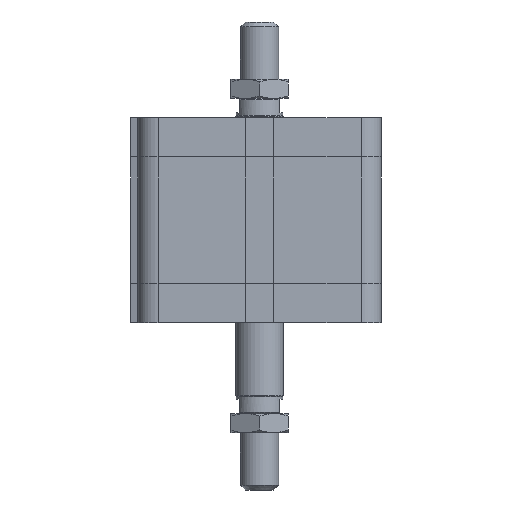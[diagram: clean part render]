
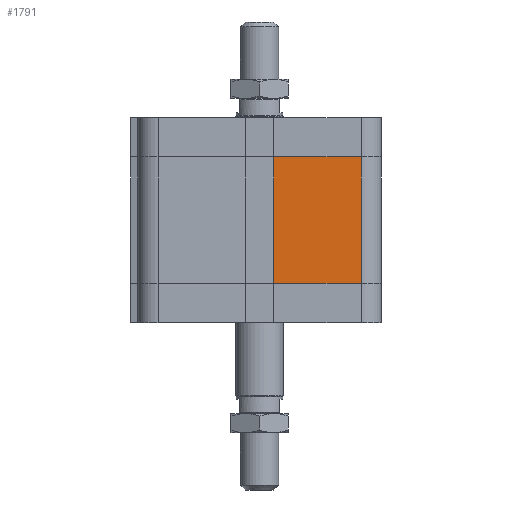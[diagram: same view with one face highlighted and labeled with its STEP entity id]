
A CAD part, left-side view. The second image highlights one B-rep face of the part: STEP entity #1791.
In plain terms, the highlighted planar face has unit normal (-1, 0, 0).
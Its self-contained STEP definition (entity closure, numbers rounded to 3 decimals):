
#1704=CARTESIAN_POINT('',(-51.,-6.,16.5));
#1705=VERTEX_POINT('',#1704);
#1712=CARTESIAN_POINT('',(-51.,-6.,69.5));
#1713=VERTEX_POINT('',#1712);
#1714=CARTESIAN_POINT('',(-51.,-6.,16.5));
#1715=DIRECTION('',(0.0,0.0,1.0));
#1716=VECTOR('',#1715,53.);
#1717=LINE('',#1714,#1716);
#1718=EDGE_CURVE('',#1705,#1713,#1717,.T.);
#1761=CARTESIAN_POINT('',(-51.0,-42.5,0.0));
#1762=DIRECTION('',(-1.0,0.0,0.0));
#1763=DIRECTION('',(0.0,0.0,1.0));
#1764=AXIS2_PLACEMENT_3D('',#1761,#1762,#1763);
#1765=PLANE('',#1764);
#1766=CARTESIAN_POINT('',(-51.0,-42.5,16.5));
#1767=VERTEX_POINT('',#1766);
#1768=CARTESIAN_POINT('',(-51.,-6.0,16.5));
#1769=DIRECTION('',(0.0,-1.0,0.0));
#1770=VECTOR('',#1769,36.5);
#1771=LINE('',#1768,#1770);
#1772=EDGE_CURVE('',#1705,#1767,#1771,.T.);
#1773=ORIENTED_EDGE('',*,*,#1772,.T.);
#1774=CARTESIAN_POINT('',(-51.0,-42.5,69.5));
#1775=VERTEX_POINT('',#1774);
#1776=CARTESIAN_POINT('',(-51.0,-42.5,16.5));
#1777=DIRECTION('',(0.0,0.0,1.0));
#1778=VECTOR('',#1777,53.);
#1779=LINE('',#1776,#1778);
#1780=EDGE_CURVE('',#1767,#1775,#1779,.T.);
#1781=ORIENTED_EDGE('',*,*,#1780,.T.);
#1782=CARTESIAN_POINT('',(-51.,-6.0,69.5));
#1783=DIRECTION('',(0.0,-1.0,0.0));
#1784=VECTOR('',#1783,36.5);
#1785=LINE('',#1782,#1784);
#1786=EDGE_CURVE('',#1713,#1775,#1785,.T.);
#1787=ORIENTED_EDGE('',*,*,#1786,.F.);
#1788=ORIENTED_EDGE('',*,*,#1718,.F.);
#1789=EDGE_LOOP('',(#1773,#1781,#1787,#1788));
#1790=FACE_OUTER_BOUND('',#1789,.T.);
#1791=ADVANCED_FACE('',(#1790),#1765,.T.);
